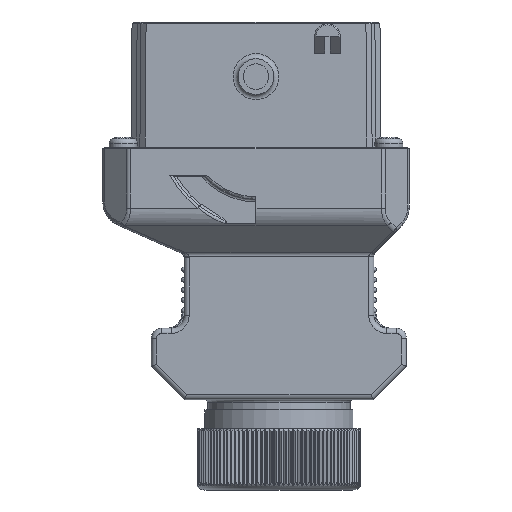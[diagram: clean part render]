
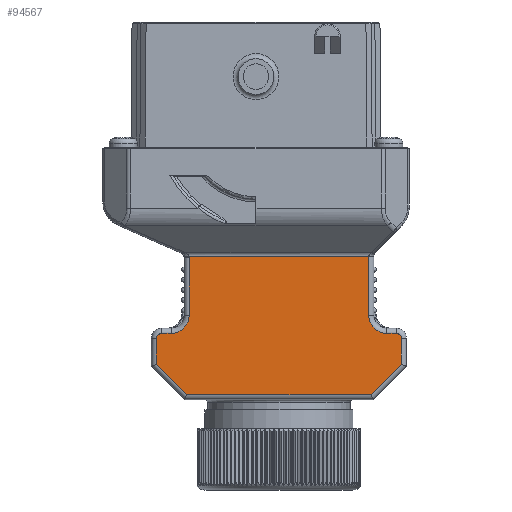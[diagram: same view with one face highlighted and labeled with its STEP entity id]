
A CAD part, front view. The second image highlights one B-rep face of the part: STEP entity #94567.
In plain terms, the highlighted planar face has unit normal (0, -1, 0).
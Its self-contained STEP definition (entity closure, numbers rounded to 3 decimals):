
#37 = ORIENTED_EDGE ( 'NONE', *, *, #72184, .T. ) ;
#107 = VERTEX_POINT ( 'NONE', #22710 ) ;
#395 = LINE ( 'NONE', #71388, #145352 ) ;
#798 = VERTEX_POINT ( 'NONE', #140792 ) ;
#1819 = VECTOR ( 'NONE', #32280, 1000. ) ;
#5209 = LINE ( 'NONE', #100312, #96216 ) ;
#5451 = LINE ( 'NONE', #53059, #92726 ) ;
#5623 = VERTEX_POINT ( 'NONE', #44853 ) ;
#7590 = DIRECTION ( 'NONE',  ( 0., 1., 0. ) ) ;
#7630 = EDGE_CURVE ( 'NONE', #44582, #38225, #395, .T. ) ;
#11603 = VECTOR ( 'NONE', #123952, 1000. ) ;
#11820 = CARTESIAN_POINT ( 'NONE',  ( -16.6, -16., -61. ) ) ;
#12301 = AXIS2_PLACEMENT_3D ( 'NONE', #135345, #62090, #50632 ) ;
#12520 = CARTESIAN_POINT ( 'NONE',  ( -13.1, -16., -46.152 ) ) ;
#15973 = CIRCLE ( 'NONE', #22276, 3.5 ) ;
#18235 = CARTESIAN_POINT ( 'NONE',  ( -16.6, -16., -57.5 ) ) ;
#21408 = AXIS2_PLACEMENT_3D ( 'NONE', #127047, #7590, #79225 ) ;
#22237 = VECTOR ( 'NONE', #91817, 1000. ) ;
#22276 = AXIS2_PLACEMENT_3D ( 'NONE', #18235, #54060, #28574 ) ;
#22710 = CARTESIAN_POINT ( 'NONE',  ( -13.1, -16., -57.5 ) ) ;
#23975 = ORIENTED_EDGE ( 'NONE', *, *, #99851, .T. ) ;
#24794 = CARTESIAN_POINT ( 'NONE',  ( 23.1, -16., -60. ) ) ;
#25166 = CARTESIAN_POINT ( 'NONE',  ( 28.5, -16., -62. ) ) ;
#25305 = FACE_OUTER_BOUND ( 'NONE', #123860, .T. ) ;
#27222 = AXIS2_PLACEMENT_3D ( 'NONE', #31185, #147581, #114416 ) ;
#28574 = DIRECTION ( 'NONE',  ( 0., 0., -1. ) ) ;
#29283 = DIRECTION ( 'NONE',  ( 0., 1., 0. ) ) ;
#29586 = EDGE_CURVE ( 'NONE', #79590, #44582, #98886, .T. ) ;
#30898 = ORIENTED_EDGE ( 'NONE', *, *, #56696, .T. ) ;
#31026 = AXIS2_PLACEMENT_3D ( 'NONE', #95437, #119338, #47619 ) ;
#31050 = LINE ( 'NONE', #35775, #153689 ) ;
#31185 = CARTESIAN_POINT ( 'NONE',  ( -18.5, -16., -62. ) ) ;
#32280 = DIRECTION ( 'NONE',  ( 0.707, 0., -0.707 ) ) ;
#33364 = LINE ( 'NONE', #152255, #1819 ) ;
#33642 = VERTEX_POINT ( 'NONE', #94885 ) ;
#34121 = EDGE_CURVE ( 'NONE', #47314, #72522, #70997, .T. ) ;
#35775 = CARTESIAN_POINT ( 'NONE',  ( -14.1, -16., -45.906 ) ) ;
#36029 = DIRECTION ( 'NONE',  ( -1., 0., 0. ) ) ;
#37647 = CIRCLE ( 'NONE', #12301, 2. ) ;
#37701 = CARTESIAN_POINT ( 'NONE',  ( 27.5, -16., -61. ) ) ;
#37931 = CIRCLE ( 'NONE', #21408, 3.5 ) ;
#38208 = CARTESIAN_POINT ( 'NONE',  ( -18.5, -16., -61. ) ) ;
#38225 = VERTEX_POINT ( 'NONE', #66375 ) ;
#39142 = EDGE_CURVE ( 'NONE', #119685, #74447, #5451, .T. ) ;
#40458 = ORIENTED_EDGE ( 'NONE', *, *, #142848, .T. ) ;
#42631 = VERTEX_POINT ( 'NONE', #12520 ) ;
#43071 = ORIENTED_EDGE ( 'NONE', *, *, #39142, .T. ) ;
#44582 = VERTEX_POINT ( 'NONE', #37701 ) ;
#44853 = CARTESIAN_POINT ( 'NONE',  ( -19.5, -16., -62. ) ) ;
#44887 = CARTESIAN_POINT ( 'NONE',  ( 29.343, -16., -66.243 ) ) ;
#45979 = ORIENTED_EDGE ( 'NONE', *, *, #139894, .T. ) ;
#47314 = VERTEX_POINT ( 'NONE', #101653 ) ;
#47619 = DIRECTION ( 'NONE',  ( 0., 0., -1. ) ) ;
#48047 = LINE ( 'NONE', #72717, #49834 ) ;
#49834 = VECTOR ( 'NONE', #144335, 1000. ) ;
#50632 = DIRECTION ( 'NONE',  ( 0., 0., -1. ) ) ;
#51213 = ORIENTED_EDGE ( 'NONE', *, *, #7630, .T. ) ;
#52750 = CARTESIAN_POINT ( 'NONE',  ( 28.5, -16., -67.086 ) ) ;
#53059 = CARTESIAN_POINT ( 'NONE',  ( 22.1, -16., -45.5 ) ) ;
#54060 = DIRECTION ( 'NONE',  ( 0., 1., 0. ) ) ;
#54489 = DIRECTION ( 'NONE',  ( 1., 0., 0. ) ) ;
#55992 = CARTESIAN_POINT ( 'NONE',  ( -13.1, -16., -57.5 ) ) ;
#56683 = AXIS2_PLACEMENT_3D ( 'NONE', #24794, #108036, #130364 ) ;
#56696 = EDGE_CURVE ( 'NONE', #33642, #81302, #33364, .T. ) ;
#58014 = VERTEX_POINT ( 'NONE', #11820 ) ;
#62090 = DIRECTION ( 'NONE',  ( 0., 1., 0. ) ) ;
#63127 = LINE ( 'NONE', #55992, #22237 ) ;
#64038 = ORIENTED_EDGE ( 'NONE', *, *, #29586, .T. ) ;
#66375 = CARTESIAN_POINT ( 'NONE',  ( 25.6, -16., -61. ) ) ;
#70648 = CARTESIAN_POINT ( 'NONE',  ( -19.5, -16., -67.5 ) ) ;
#70997 = LINE ( 'NONE', #44887, #139841 ) ;
#71388 = CARTESIAN_POINT ( 'NONE',  ( 25.6, -16., -61. ) ) ;
#72169 = ORIENTED_EDGE ( 'NONE', *, *, #89565, .T. ) ;
#72184 = EDGE_CURVE ( 'NONE', #5623, #33642, #151573, .T. ) ;
#72522 = VERTEX_POINT ( 'NONE', #52750 ) ;
#72717 = CARTESIAN_POINT ( 'NONE',  ( -18.5, -16., -61. ) ) ;
#73166 = LINE ( 'NONE', #25166, #11603 ) ;
#74447 = VERTEX_POINT ( 'NONE', #109838 ) ;
#75181 = ORIENTED_EDGE ( 'NONE', *, *, #138339, .T. ) ;
#77644 = CARTESIAN_POINT ( 'NONE',  ( 22.1, -16., -57.5 ) ) ;
#77648 = DIRECTION ( 'NONE',  ( 0., 0., -1. ) ) ;
#79225 = DIRECTION ( 'NONE',  ( 0., 0., -1. ) ) ;
#79590 = VERTEX_POINT ( 'NONE', #121604 ) ;
#81302 = VERTEX_POINT ( 'NONE', #127127 ) ;
#82540 = PLANE ( 'NONE',  #56683 ) ;
#84050 = CIRCLE ( 'NONE', #27222, 1. ) ;
#87420 = CIRCLE ( 'NONE', #128919, 2. ) ;
#89565 = EDGE_CURVE ( 'NONE', #38225, #119685, #37931, .T. ) ;
#91817 = DIRECTION ( 'NONE',  ( 0., 0., -1. ) ) ;
#92726 = VECTOR ( 'NONE', #136666, 1000. ) ;
#94567 = ADVANCED_FACE ( 'NONE', ( #25305 ), #82540, .T. ) ;
#94885 = CARTESIAN_POINT ( 'NONE',  ( -19.5, -16., -67.086 ) ) ;
#95437 = CARTESIAN_POINT ( 'NONE',  ( 27.5, -16., -62. ) ) ;
#96216 = VECTOR ( 'NONE', #54489, 1000. ) ;
#98560 = ORIENTED_EDGE ( 'NONE', *, *, #34121, .T. ) ;
#98886 = CIRCLE ( 'NONE', #31026, 1. ) ;
#99851 = EDGE_CURVE ( 'NONE', #74447, #126000, #87420, .T. ) ;
#100312 = CARTESIAN_POINT ( 'NONE',  ( 23., -16., -73. ) ) ;
#101455 = VECTOR ( 'NONE', #131944, 1000. ) ;
#101653 = CARTESIAN_POINT ( 'NONE',  ( 22.586, -16., -73. ) ) ;
#108036 = DIRECTION ( 'NONE',  ( 0., -1., 0. ) ) ;
#109838 = CARTESIAN_POINT ( 'NONE',  ( 22.1, -16., -45.91 ) ) ;
#112825 = CARTESIAN_POINT ( 'NONE',  ( 22.1, -16., -45.906 ) ) ;
#114416 = DIRECTION ( 'NONE',  ( 0., 0., -1. ) ) ;
#117074 = EDGE_CURVE ( 'NONE', #72522, #79590, #73166, .T. ) ;
#119338 = DIRECTION ( 'NONE',  ( 0., -1., 0. ) ) ;
#119685 = VERTEX_POINT ( 'NONE', #77644 ) ;
#121604 = CARTESIAN_POINT ( 'NONE',  ( 28.5, -16., -62. ) ) ;
#123481 = ORIENTED_EDGE ( 'NONE', *, *, #137441, .T. ) ;
#123860 = EDGE_LOOP ( 'NONE', ( #147088, #123481, #141372, #75181, #150786, #37, #30898, #45979, #98560, #152185, #64038, #51213, #72169, #43071, #23975, #40458 ) ) ;
#123952 = DIRECTION ( 'NONE',  ( 0., 0., 1. ) ) ;
#126000 = VERTEX_POINT ( 'NONE', #112825 ) ;
#127047 = CARTESIAN_POINT ( 'NONE',  ( 25.6, -16., -57.5 ) ) ;
#127127 = CARTESIAN_POINT ( 'NONE',  ( -13.586, -16., -73. ) ) ;
#128919 = AXIS2_PLACEMENT_3D ( 'NONE', #138321, #29283, #77648 ) ;
#130364 = DIRECTION ( 'NONE',  ( 0., 0., -1. ) ) ;
#131551 = EDGE_CURVE ( 'NONE', #107, #58014, #15973, .T. ) ;
#131944 = DIRECTION ( 'NONE',  ( 0., 0., -1. ) ) ;
#135345 = CARTESIAN_POINT ( 'NONE',  ( -15.1, -16., -46.152 ) ) ;
#136666 = DIRECTION ( 'NONE',  ( 0., 0., 1. ) ) ;
#137441 = EDGE_CURVE ( 'NONE', #42631, #107, #63127, .T. ) ;
#138321 = CARTESIAN_POINT ( 'NONE',  ( 24.1, -16., -45.91 ) ) ;
#138339 = EDGE_CURVE ( 'NONE', #58014, #138868, #48047, .T. ) ;
#138868 = VERTEX_POINT ( 'NONE', #38208 ) ;
#139841 = VECTOR ( 'NONE', #151842, 1000. ) ;
#139894 = EDGE_CURVE ( 'NONE', #81302, #47314, #5209, .T. ) ;
#140792 = CARTESIAN_POINT ( 'NONE',  ( -13.115, -16., -45.906 ) ) ;
#141372 = ORIENTED_EDGE ( 'NONE', *, *, #131551, .T. ) ;
#142848 = EDGE_CURVE ( 'NONE', #126000, #798, #31050, .T. ) ;
#143229 = DIRECTION ( 'NONE',  ( -1., 0., 0. ) ) ;
#144335 = DIRECTION ( 'NONE',  ( -1., 0., 0. ) ) ;
#145352 = VECTOR ( 'NONE', #36029, 1000. ) ;
#146959 = EDGE_CURVE ( 'NONE', #798, #42631, #37647, .T. ) ;
#147088 = ORIENTED_EDGE ( 'NONE', *, *, #146959, .T. ) ;
#147415 = EDGE_CURVE ( 'NONE', #138868, #5623, #84050, .T. ) ;
#147581 = DIRECTION ( 'NONE',  ( 0., -1., 0. ) ) ;
#150786 = ORIENTED_EDGE ( 'NONE', *, *, #147415, .T. ) ;
#151573 = LINE ( 'NONE', #70648, #101455 ) ;
#151842 = DIRECTION ( 'NONE',  ( 0.707, 0., 0.707 ) ) ;
#152185 = ORIENTED_EDGE ( 'NONE', *, *, #117074, .T. ) ;
#152255 = CARTESIAN_POINT ( 'NONE',  ( -1.743, -16., -84.843 ) ) ;
#153689 = VECTOR ( 'NONE', #143229, 1000. ) ;
